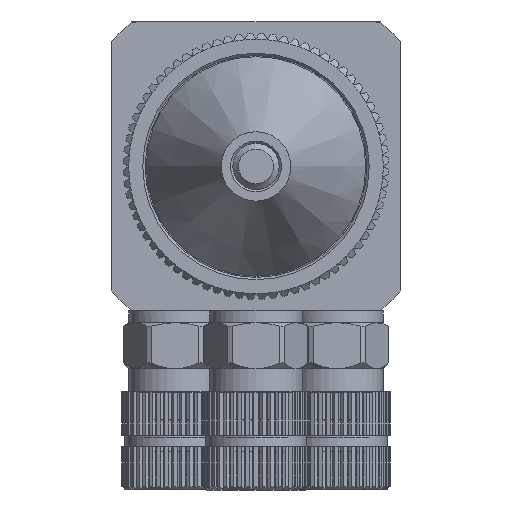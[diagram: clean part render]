
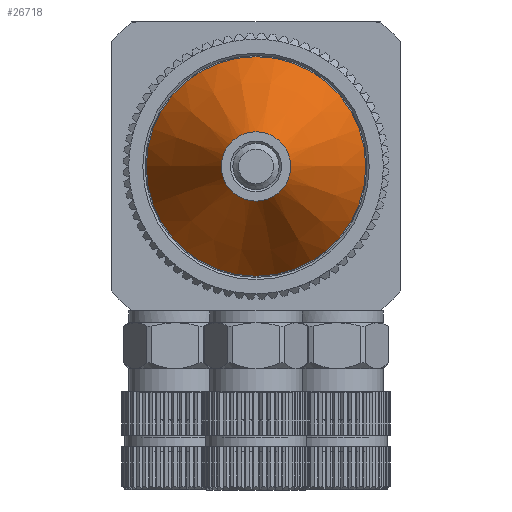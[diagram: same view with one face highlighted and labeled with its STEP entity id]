
A CAD part, front view. The second image highlights one B-rep face of the part: STEP entity #26718.
In plain terms, the highlighted conical face has half-angle 30 degrees and reference radius 9.5 mm.
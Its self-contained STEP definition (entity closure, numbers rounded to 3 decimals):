
#3263 = ORIENTED_EDGE ( 'NONE', *, *, #44035, .F. ) ;
#8893 = VERTEX_POINT ( 'NONE', #52267 ) ;
#11140 = CIRCLE ( 'NONE', #51474, 9.5 ) ;
#14207 = FACE_OUTER_BOUND ( 'NONE', #17078, .T. ) ;
#17078 = EDGE_LOOP ( 'NONE', ( #35568 ) ) ;
#18619 = CARTESIAN_POINT ( 'NONE',  ( 0., -6.242, 9.5 ) ) ;
#19070 = FACE_BOUND ( 'NONE', #62838, .T. ) ;
#20423 = DIRECTION ( 'NONE',  ( 0., -1., 0. ) ) ;
#21463 = CARTESIAN_POINT ( 'NONE',  ( 0., -6.242, 0. ) ) ;
#26718 = ADVANCED_FACE ( 'NONE', ( #19070, #14207 ), #43906, .T. ) ;
#32127 = AXIS2_PLACEMENT_3D ( 'NONE', #54998, #20423, #39540 ) ;
#35568 = ORIENTED_EDGE ( 'NONE', *, *, #37884, .T. ) ;
#37884 = EDGE_CURVE ( 'NONE', #63576, #63576, #11140, .T. ) ;
#38837 = DIRECTION ( 'NONE',  ( 0., 1., 0. ) ) ;
#39540 = DIRECTION ( 'NONE',  ( -1., 0., 0. ) ) ;
#42736 = CARTESIAN_POINT ( 'NONE',  ( 0., -6.242, 0. ) ) ;
#43906 = CONICAL_SURFACE ( 'NONE', #52113, 9.5, 0.524 ) ;
#44035 = EDGE_CURVE ( 'NONE', #8893, #8893, #62065, .T. ) ;
#45739 = DIRECTION ( 'NONE',  ( 0., 0., 1. ) ) ;
#46694 = DIRECTION ( 'NONE',  ( 0., -1., 0. ) ) ;
#51474 = AXIS2_PLACEMENT_3D ( 'NONE', #21463, #46694, #45739 ) ;
#52113 = AXIS2_PLACEMENT_3D ( 'NONE', #42736, #38837, #57254 ) ;
#52267 = CARTESIAN_POINT ( 'NONE',  ( -3., -17.5, 0. ) ) ;
#54998 = CARTESIAN_POINT ( 'NONE',  ( 0., -17.5, 0. ) ) ;
#57254 = DIRECTION ( 'NONE',  ( -1., 0., 0. ) ) ;
#62065 = CIRCLE ( 'NONE', #32127, 3. ) ;
#62838 = EDGE_LOOP ( 'NONE', ( #3263 ) ) ;
#63576 = VERTEX_POINT ( 'NONE', #18619 ) ;
